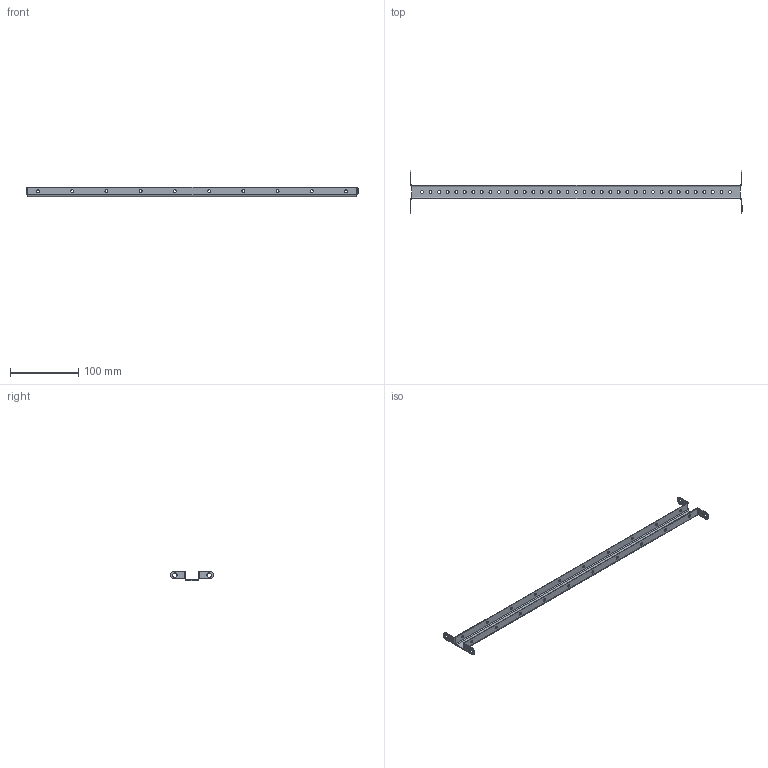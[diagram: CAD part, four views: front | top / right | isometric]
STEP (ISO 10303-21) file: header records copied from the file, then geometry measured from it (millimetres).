
FILE_DESCRIPTION (( 'STEP AP203' ), '1' );
FILE_NAME ('MG 60.02 Ìîíòàæíàÿ ðåéêà.STEP', '2023-04-04T07:33:28', ( '' ), ( '' ), 'SwSTEP 2.0', 'SolidWorks 2018', '' );
FILE_SCHEMA (( 'CONFIG_CONTROL_DESIGN' ));
Length unit declared in the file: millimetre
Products named in the file (1): MG 60.02 Ìîíòàæíàÿ ðåéêà
Bounding box: 485 x 63.6 x 13.5 mm (x, y, z)
Volume: 24908 mm3; surface area: 43977.8 mm2
Topology: 1 solids, 1 shells, 178 faces, 492 edges, 316 vertices
Faces by surface type: cylinder 134, plane 44
Entity records: 6097 total; most frequent: DIRECTION 1118, CARTESIAN_POINT 987, ORIENTED_EDGE 984, EDGE_CURVE 492, AXIS2_PLACEMENT_3D 447, VERTEX_POINT 316, EDGE_LOOP 300, CIRCLE 268
